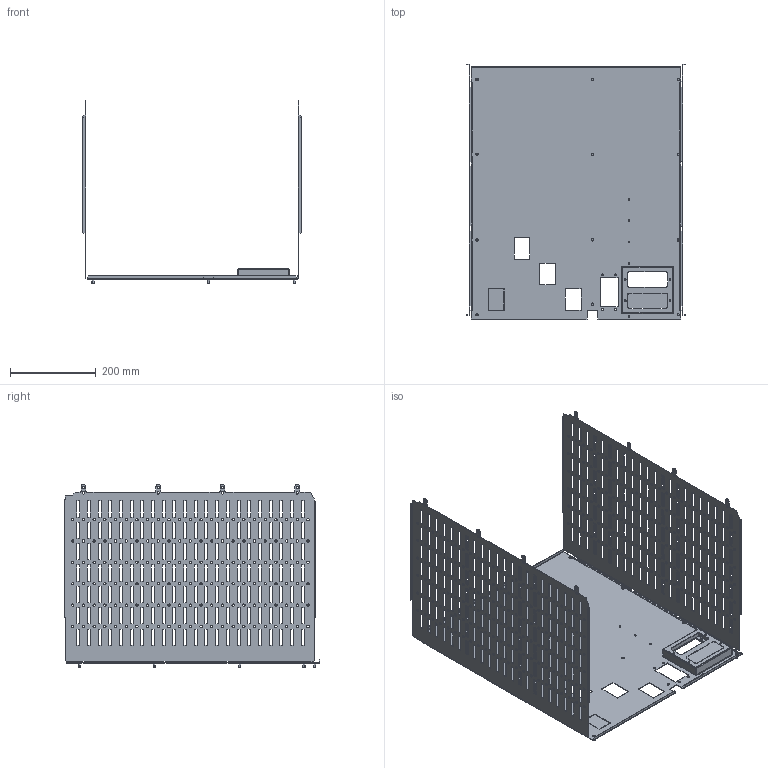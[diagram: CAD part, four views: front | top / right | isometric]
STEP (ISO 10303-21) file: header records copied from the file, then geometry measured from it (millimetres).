
FILE_DESCRIPTION(('CAx-IF Rec.Pracs.---Model Styling and Organization---1.2---2011-12-15','CAx-IF Rec.Pracs.---Geometric and Assembly Validation Properties---4.1---2014-06-16','CAx-IF Rec.Pracs.---PMI Polyline Presentation---2.0---2013-05-24'),'2;1');
FILE_NAME('R5M2W12M1A61.stp','2021-05-05T12:39:07+03:00',(''),(''),'STEP Interface 4.4 by CT CoreTechnologie','3D_Evolution4.4 by CT CoreTechnologie','');
FILE_SCHEMA(('AUTOMOTIVE_DESIGN { 1 0 10303 214 1 1 1 1 }'));
Length unit declared in the file: millimetre
Products named in the file (6): R5M2W12M1A61; M5x8-DIN7500C_stright; RB.1285.00.00.0_-16; RB.1285.00.00.0_-17; RB.1257.00.00.0_-18; RB.1568.00.00.0_-00
Assembly tree (20 placements, depth 2):
  R5M2W12M1A61
    M5x8-DIN7500C_stright  x16
    RB.1285.00.00.0_-16
    RB.1285.00.00.0_-17
    RB.1257.00.00.0_-18
    RB.1568.00.00.0_-00
Bounding box: 510 x 597.5 x 428.6 mm (x, y, z)
Surface area: 1423453.1 mm2 (no closed solid volume)
Topology: 0 solids, 22 shells, 2338 faces, 6917 edges, 4607 vertices
Faces by surface type: plane 1546, cylinder 784, bspline 8
Entity records: 80060 total; most frequent: CARTESIAN_POINT 13999, ORIENTED_EDGE 13654, DIRECTION 12897, EDGE_CURVE 6827, VECTOR 5311, LINE 5311, VERTEX_POINT 4547, AXIS2_PLACEMENT_3D 3793
